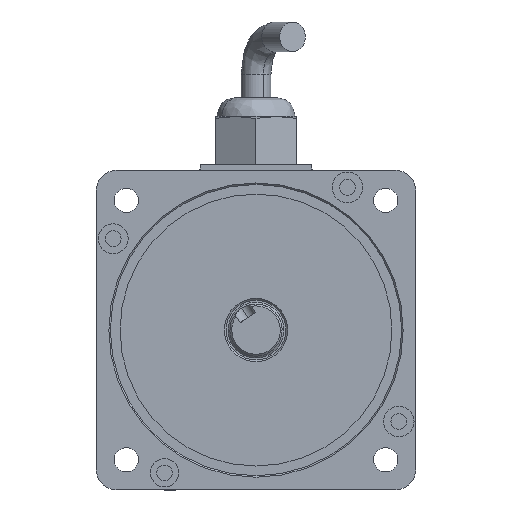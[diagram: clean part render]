
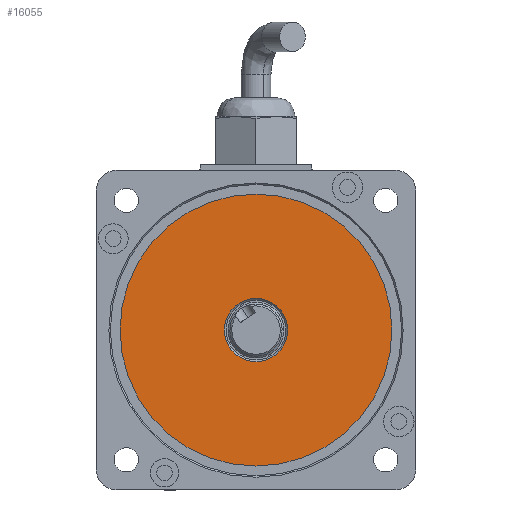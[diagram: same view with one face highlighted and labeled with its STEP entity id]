
A CAD part, front view. The second image highlights one B-rep face of the part: STEP entity #16055.
In plain terms, the highlighted planar face has unit normal (0, -1, 0) as drawn and (0, 0, 1) by its records, which use the part's own axes.
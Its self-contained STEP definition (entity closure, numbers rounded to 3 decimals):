
#7 = DIRECTION ( 'NONE',  ( -1., 0., 0. ) ) ;
#76 = ORIENTED_EDGE ( 'NONE', *, *, #4406, .T. ) ;
#93 = VERTEX_POINT ( 'NONE', #7180 ) ;
#123 = ORIENTED_EDGE ( 'NONE', *, *, #1810, .T. ) ;
#645 = DIRECTION ( 'NONE',  ( 0., 0., -1. ) ) ;
#1810 = EDGE_CURVE ( 'NONE', #12732, #6430, #2637, .T. ) ;
#2074 = AXIS2_PLACEMENT_3D ( 'NONE', #8035, #13199, #2929 ) ;
#2443 = CARTESIAN_POINT ( 'NONE',  ( -8.5, 0., 10.6 ) ) ;
#2637 = CIRCLE ( 'NONE', #3359, 8.5 ) ;
#2896 = EDGE_CURVE ( 'NONE', #6430, #12732, #6471, .T. ) ;
#2929 = DIRECTION ( 'NONE',  ( 1., 0., 0. ) ) ;
#3359 = AXIS2_PLACEMENT_3D ( 'NONE', #4775, #12340, #13796 ) ;
#3376 = FACE_BOUND ( 'NONE', #3455, .T. ) ;
#3455 = EDGE_LOOP ( 'NONE', ( #123, #15031 ) ) ;
#4406 = EDGE_CURVE ( 'NONE', #15455, #93, #5818, .T. ) ;
#4569 = CARTESIAN_POINT ( 'NONE',  ( 0., 0., 10.6 ) ) ;
#4718 = CARTESIAN_POINT ( 'NONE',  ( -36.5, 0., 10.6 ) ) ;
#4775 = CARTESIAN_POINT ( 'NONE',  ( 0., 0., 10.6 ) ) ;
#5239 = AXIS2_PLACEMENT_3D ( 'NONE', #4569, #645, #9674 ) ;
#5455 = ORIENTED_EDGE ( 'NONE', *, *, #15550, .T. ) ;
#5818 = CIRCLE ( 'NONE', #8586, 36.5 ) ;
#6150 = EDGE_LOOP ( 'NONE', ( #76, #5455 ) ) ;
#6389 = DIRECTION ( 'NONE',  ( -1., 0., 0. ) ) ;
#6430 = VERTEX_POINT ( 'NONE', #2443 ) ;
#6452 = DIRECTION ( 'NONE',  ( 0., 0., 1. ) ) ;
#6471 = CIRCLE ( 'NONE', #5239, 8.5 ) ;
#6613 = CARTESIAN_POINT ( 'NONE',  ( 0., 0., 10.6 ) ) ;
#7180 = CARTESIAN_POINT ( 'NONE',  ( 36.5, 0., 10.6 ) ) ;
#8035 = CARTESIAN_POINT ( 'NONE',  ( 0., 0., 10.6 ) ) ;
#8586 = AXIS2_PLACEMENT_3D ( 'NONE', #6613, #6452, #7 ) ;
#9238 = FACE_OUTER_BOUND ( 'NONE', #6150, .T. ) ;
#9674 = DIRECTION ( 'NONE',  ( 1., 0., 0. ) ) ;
#10363 = CARTESIAN_POINT ( 'NONE',  ( 8.5, 0., 10.6 ) ) ;
#11193 = AXIS2_PLACEMENT_3D ( 'NONE', #11475, #14145, #6389 ) ;
#11475 = CARTESIAN_POINT ( 'NONE',  ( 0., 0., 10.6 ) ) ;
#12340 = DIRECTION ( 'NONE',  ( 0., 0., -1. ) ) ;
#12732 = VERTEX_POINT ( 'NONE', #10363 ) ;
#13199 = DIRECTION ( 'NONE',  ( 0., 0., 1. ) ) ;
#13796 = DIRECTION ( 'NONE',  ( 1., 0., 0. ) ) ;
#14145 = DIRECTION ( 'NONE',  ( 0., 0., 1. ) ) ;
#14451 = PLANE ( 'NONE',  #2074 ) ;
#15031 = ORIENTED_EDGE ( 'NONE', *, *, #2896, .T. ) ;
#15450 = CIRCLE ( 'NONE', #11193, 36.5 ) ;
#15455 = VERTEX_POINT ( 'NONE', #4718 ) ;
#15550 = EDGE_CURVE ( 'NONE', #93, #15455, #15450, .T. ) ;
#16055 = ADVANCED_FACE ( 'NONE', ( #9238, #3376 ), #14451, .T. ) ;
